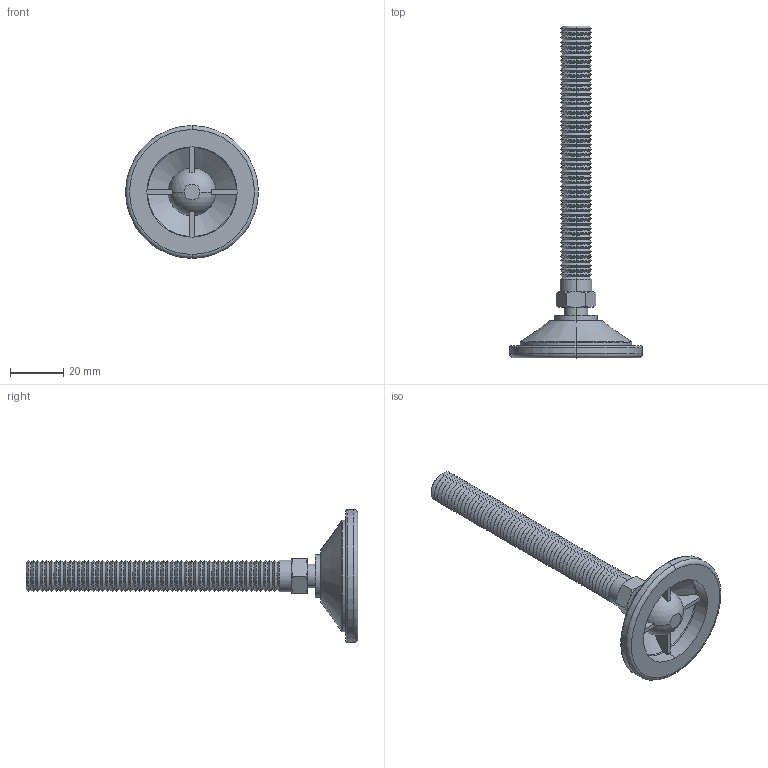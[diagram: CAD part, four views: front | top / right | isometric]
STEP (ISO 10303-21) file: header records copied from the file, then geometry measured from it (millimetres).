
FILE_DESCRIPTION (( 'STEP AP203' ), '1' );
FILE_NAME ('34741.W0125.step', '2016-09-22T07:41:55', ( 'User' ), ( '' ), 'SwSTEP 2.0', 'SolidWorks 2009', '' );
FILE_SCHEMA (( 'CONFIG_CONTROL_DESIGN' ));
Length unit declared in the file: millimetre
Products named in the file (3): 34741.W0125; Part1_34741.W0125; Part2_34741.W0125
Assembly tree (2 placements, depth 2):
  34741.W0125
    Part2_34741.W0125
    Part1_34741.W0125
Bounding box: 50 x 125 x 50 mm (x, y, z)
Volume: 21794 mm3; surface area: 13535.2 mm2
Topology: 2 solids, 2 shells, 296 faces, 628 edges, 338 vertices
Faces by surface type: cone 238, plane 26, cylinder 14, torus 12, sphere 6
Entity records: 8145 total; most frequent: DIRECTION 1502, CARTESIAN_POINT 1461, ORIENTED_EDGE 1238, AXIS2_PLACEMENT_3D 622, EDGE_CURVE 619, VERTEX_POINT 333, CIRCLE 321, EDGE_LOOP 302
